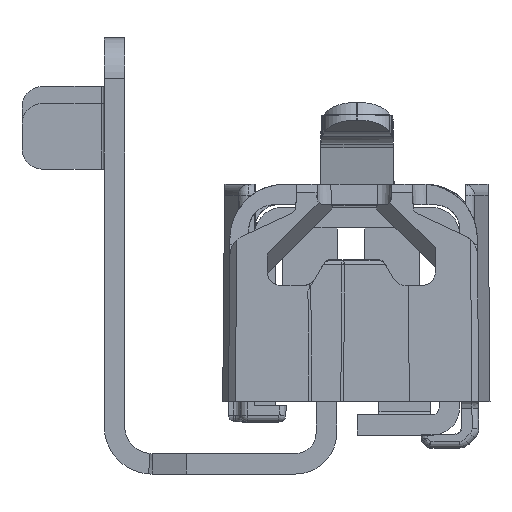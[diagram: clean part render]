
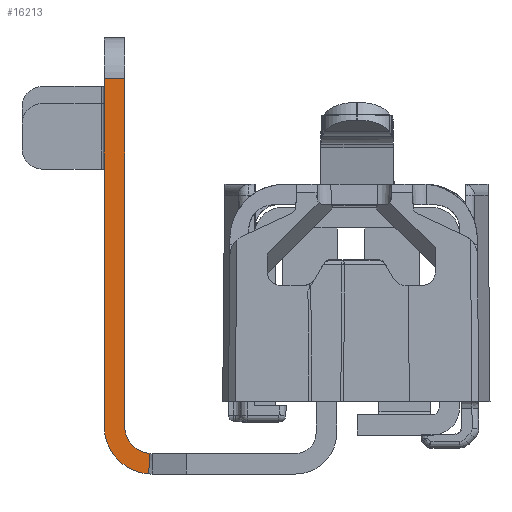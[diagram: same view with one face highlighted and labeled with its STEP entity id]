
A CAD part, front view. The second image highlights one B-rep face of the part: STEP entity #16213.
In plain terms, the highlighted planar face has unit normal (0, -1, 0).
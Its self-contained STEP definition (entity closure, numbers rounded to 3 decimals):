
#274 = VECTOR ( 'NONE', #2949, 1000. ) ;
#1302 = CARTESIAN_POINT ( 'NONE',  ( 1.753, 1., 0.009 ) ) ;
#1494 = CARTESIAN_POINT ( 'NONE',  ( 2., 1., 3.5 ) ) ;
#1653 = CARTESIAN_POINT ( 'NONE',  ( -1.5, 1., 28.9 ) ) ;
#2384 = EDGE_CURVE ( 'NONE', #11352, #7485, #6224, .T. ) ;
#2741 = VERTEX_POINT ( 'NONE', #1302 ) ;
#2845 = CIRCLE ( 'NONE', #5214, 2. ) ;
#2949 = DIRECTION ( 'NONE',  ( -1., 0., 0. ) ) ;
#2970 = PLANE ( 'NONE',  #15886 ) ;
#2990 = VERTEX_POINT ( 'NONE', #8085 ) ;
#3574 = VERTEX_POINT ( 'NONE', #15480 ) ;
#4163 = VECTOR ( 'NONE', #7325, 1000. ) ;
#4296 = DIRECTION ( 'NONE',  ( -0.071, 0., -0.997 ) ) ;
#4458 = DIRECTION ( 'NONE',  ( 0., 1., 0. ) ) ;
#5203 = LINE ( 'NONE', #5388, #10536 ) ;
#5214 = AXIS2_PLACEMENT_3D ( 'NONE', #11965, #17619, #10822 ) ;
#5388 = CARTESIAN_POINT ( 'NONE',  ( 0., 1., 31.9 ) ) ;
#5501 = CARTESIAN_POINT ( 'NONE',  ( 1.753, 1., 0.009 ) ) ;
#5565 = FACE_OUTER_BOUND ( 'NONE', #16542, .T. ) ;
#6180 = CARTESIAN_POINT ( 'NONE',  ( -1.5, 1., 28.9 ) ) ;
#6224 = LINE ( 'NONE', #14744, #4163 ) ;
#6587 = VERTEX_POINT ( 'NONE', #15943 ) ;
#7325 = DIRECTION ( 'NONE',  ( 0., 0., 1. ) ) ;
#7485 = VERTEX_POINT ( 'NONE', #6180 ) ;
#7812 = ORIENTED_EDGE ( 'NONE', *, *, #17444, .T. ) ;
#7813 = EDGE_CURVE ( 'NONE', #2990, #7485, #12660, .T. ) ;
#8085 = CARTESIAN_POINT ( 'NONE',  ( 0., 1., 28.9 ) ) ;
#8411 = ORIENTED_EDGE ( 'NONE', *, *, #2384, .F. ) ;
#8695 = DIRECTION ( 'NONE',  ( 0., 0., 1. ) ) ;
#8800 = CARTESIAN_POINT ( 'NONE',  ( -1.5, 1., 3.5 ) ) ;
#9049 = EDGE_CURVE ( 'NONE', #2741, #11352, #10869, .T. ) ;
#9403 = AXIS2_PLACEMENT_3D ( 'NONE', #17142, #4458, #8695 ) ;
#9693 = EDGE_CURVE ( 'NONE', #6587, #2741, #11312, .T. ) ;
#9947 = EDGE_CURVE ( 'NONE', #6587, #3574, #2845, .T. ) ;
#10536 = VECTOR ( 'NONE', #12399, 1000. ) ;
#10822 = DIRECTION ( 'NONE',  ( -1., 0., 0. ) ) ;
#10836 = ORIENTED_EDGE ( 'NONE', *, *, #7813, .T. ) ;
#10869 = CIRCLE ( 'NONE', #9403, 3.5 ) ;
#11312 = LINE ( 'NONE', #5501, #14056 ) ;
#11352 = VERTEX_POINT ( 'NONE', #8800 ) ;
#11965 = CARTESIAN_POINT ( 'NONE',  ( 2., 1., 3.5 ) ) ;
#12399 = DIRECTION ( 'NONE',  ( 0., 0., 1. ) ) ;
#12660 = LINE ( 'NONE', #1653, #274 ) ;
#12961 = DIRECTION ( 'NONE',  ( 0., -1., 0. ) ) ;
#13595 = ORIENTED_EDGE ( 'NONE', *, *, #9049, .F. ) ;
#14056 = VECTOR ( 'NONE', #4296, 1000. ) ;
#14159 = DIRECTION ( 'NONE',  ( -1., 0., 0. ) ) ;
#14278 = ORIENTED_EDGE ( 'NONE', *, *, #9947, .T. ) ;
#14744 = CARTESIAN_POINT ( 'NONE',  ( -1.5, 1., 31.9 ) ) ;
#15480 = CARTESIAN_POINT ( 'NONE',  ( 0., 1., 3.5 ) ) ;
#15886 = AXIS2_PLACEMENT_3D ( 'NONE', #1494, #12961, #14159 ) ;
#15943 = CARTESIAN_POINT ( 'NONE',  ( 1.859, 1., 1.505 ) ) ;
#16213 = ADVANCED_FACE ( 'NONE', ( #5565 ), #2970, .T. ) ;
#16542 = EDGE_LOOP ( 'NONE', ( #7812, #10836, #8411, #13595, #17365, #14278 ) ) ;
#17142 = CARTESIAN_POINT ( 'NONE',  ( 2., 1., 3.5 ) ) ;
#17365 = ORIENTED_EDGE ( 'NONE', *, *, #9693, .F. ) ;
#17444 = EDGE_CURVE ( 'NONE', #3574, #2990, #5203, .T. ) ;
#17619 = DIRECTION ( 'NONE',  ( 0., 1., 0. ) ) ;
